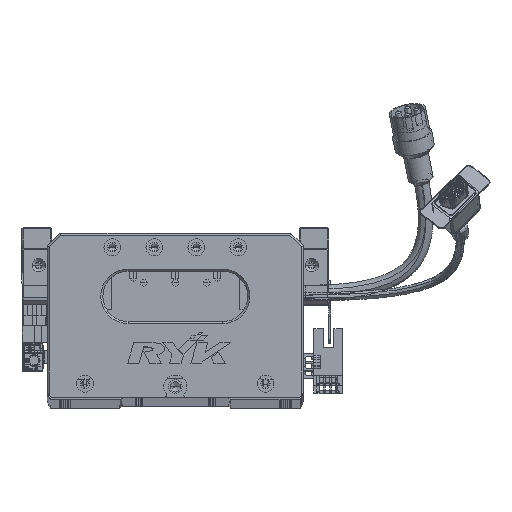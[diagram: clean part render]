
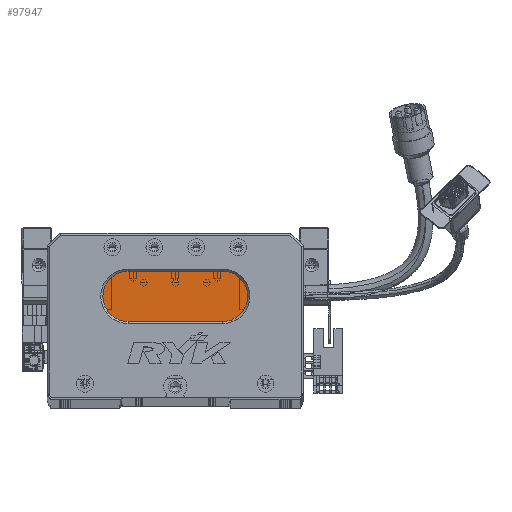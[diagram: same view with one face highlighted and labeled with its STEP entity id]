
A CAD part, top view. The second image highlights one B-rep face of the part: STEP entity #97947.
In plain terms, the highlighted planar face has unit normal (0, 0, 1) as drawn and (0, 0, -1) by its records, which use the part's own axes.
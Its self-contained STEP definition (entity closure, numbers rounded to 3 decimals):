
#862 = EDGE_CURVE ( 'NONE', #20373, #68721, #45734, .T. ) ;
#2052 = VECTOR ( 'NONE', #3206, 1000. ) ;
#2253 = DIRECTION ( 'NONE',  ( -1., 0., 0. ) ) ;
#2740 = VECTOR ( 'NONE', #60805, 1000. ) ;
#3206 = DIRECTION ( 'NONE',  ( -1., 0., 0. ) ) ;
#3460 = CARTESIAN_POINT ( 'NONE',  ( 38.5, 36., 13. ) ) ;
#4009 = EDGE_CURVE ( 'NONE', #17255, #104508, #10968, .T. ) ;
#5199 = AXIS2_PLACEMENT_3D ( 'NONE', #11389, #96810, #2253 ) ;
#10968 = LINE ( 'NONE', #40170, #2052 ) ;
#11389 = CARTESIAN_POINT ( 'NONE',  ( 38.5, 48., 13. ) ) ;
#13674 = ORIENTED_EDGE ( 'NONE', *, *, #862, .T. ) ;
#17255 = VERTEX_POINT ( 'NONE', #45932 ) ;
#19089 = ORIENTED_EDGE ( 'NONE', *, *, #32365, .T. ) ;
#20373 = VERTEX_POINT ( 'NONE', #74007 ) ;
#27607 = AXIS2_PLACEMENT_3D ( 'NONE', #40685, #56448, #107011 ) ;
#29971 = CARTESIAN_POINT ( 'NONE',  ( 83.5, 48., 13. ) ) ;
#32324 = CARTESIAN_POINT ( 'NONE',  ( 38.5, 48., 13. ) ) ;
#32365 = EDGE_CURVE ( 'NONE', #119115, #20373, #55629, .T. ) ;
#40170 = CARTESIAN_POINT ( 'NONE',  ( 83.5, 36., 13. ) ) ;
#40685 = CARTESIAN_POINT ( 'NONE',  ( 83.5, 48., 13. ) ) ;
#42789 = EDGE_CURVE ( 'NONE', #104508, #119115, #81970, .T. ) ;
#45734 = LINE ( 'NONE', #70408, #2740 ) ;
#45932 = CARTESIAN_POINT ( 'NONE',  ( 83.5, 36., 13. ) ) ;
#51805 = DIRECTION ( 'NONE',  ( -1., 0., 0. ) ) ;
#55629 = CIRCLE ( 'NONE', #86964, 12. ) ;
#56448 = DIRECTION ( 'NONE',  ( 0., 0., -1. ) ) ;
#58988 = DIRECTION ( 'NONE',  ( -1., 0., 0. ) ) ;
#60805 = DIRECTION ( 'NONE',  ( 1., 0., 0. ) ) ;
#64136 = CARTESIAN_POINT ( 'NONE',  ( 83.5, 60., 13. ) ) ;
#68721 = VERTEX_POINT ( 'NONE', #64136 ) ;
#70408 = CARTESIAN_POINT ( 'NONE',  ( 83.5, 60., 13. ) ) ;
#73458 = ORIENTED_EDGE ( 'NONE', *, *, #107131, .T. ) ;
#74007 = CARTESIAN_POINT ( 'NONE',  ( 38.5, 60., 13. ) ) ;
#76406 = DIRECTION ( 'NONE',  ( 0., 0., -1. ) ) ;
#78317 = FACE_OUTER_BOUND ( 'NONE', #88479, .T. ) ;
#81970 = CIRCLE ( 'NONE', #5199, 12. ) ;
#85590 = ORIENTED_EDGE ( 'NONE', *, *, #42789, .T. ) ;
#86964 = AXIS2_PLACEMENT_3D ( 'NONE', #32324, #99042, #51805 ) ;
#88479 = EDGE_LOOP ( 'NONE', ( #73458, #119029, #85590, #19089, #13674 ) ) ;
#89522 = AXIS2_PLACEMENT_3D ( 'NONE', #29971, #76406, #58988 ) ;
#96810 = DIRECTION ( 'NONE',  ( 0., 0., -1. ) ) ;
#97947 = ADVANCED_FACE ( 'NONE', ( #78317 ), #113171, .T. ) ;
#99042 = DIRECTION ( 'NONE',  ( 0., 0., -1. ) ) ;
#104508 = VERTEX_POINT ( 'NONE', #3460 ) ;
#107011 = DIRECTION ( 'NONE',  ( -1., 0., 0. ) ) ;
#107131 = EDGE_CURVE ( 'NONE', #68721, #17255, #109953, .T. ) ;
#109953 = CIRCLE ( 'NONE', #89522, 12. ) ;
#111729 = CARTESIAN_POINT ( 'NONE',  ( 26.5, 48., 13. ) ) ;
#113171 = PLANE ( 'NONE',  #27607 ) ;
#119029 = ORIENTED_EDGE ( 'NONE', *, *, #4009, .T. ) ;
#119115 = VERTEX_POINT ( 'NONE', #111729 ) ;
